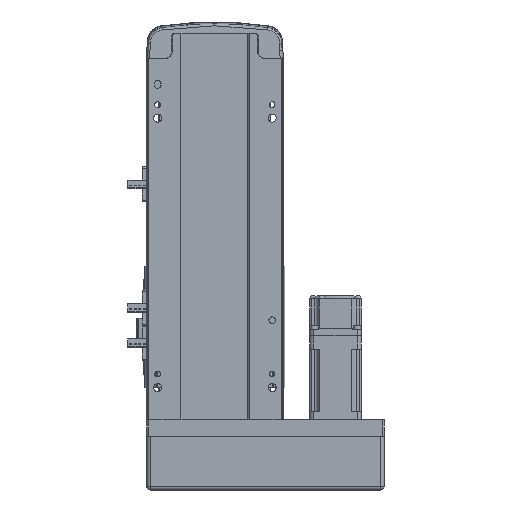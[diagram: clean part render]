
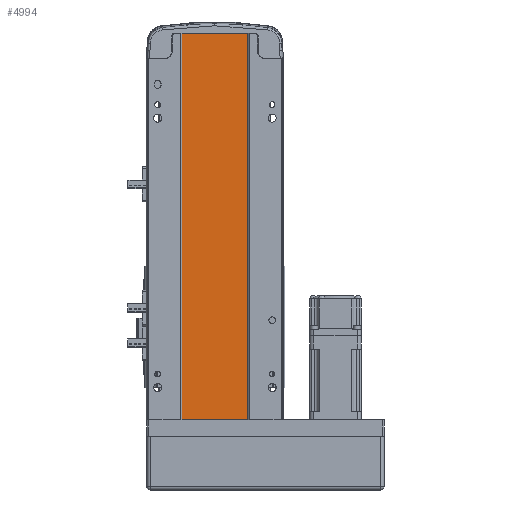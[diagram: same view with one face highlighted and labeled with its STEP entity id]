
A CAD part, front view. The second image highlights one B-rep face of the part: STEP entity #4994.
In plain terms, the highlighted planar face has unit normal (0, -1, 0).
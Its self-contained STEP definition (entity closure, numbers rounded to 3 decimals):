
#1074 = CARTESIAN_POINT ( 'NONE',  ( 24.5, 2., 0. ) ) ;
#2795 = DIRECTION ( 'NONE',  ( 0., 0., -1. ) ) ;
#4994 = ADVANCED_FACE ( 'NONE', ( #10846 ), #39525, .F. ) ;
#5363 = DIRECTION ( 'NONE',  ( 0., 1., 0. ) ) ;
#8535 = DIRECTION ( 'NONE',  ( 0., 0., -1. ) ) ;
#9735 = LINE ( 'NONE', #43490, #50062 ) ;
#10710 = CARTESIAN_POINT ( 'NONE',  ( -24.5, 2., 287. ) ) ;
#10846 = FACE_OUTER_BOUND ( 'NONE', #24128, .T. ) ;
#13327 = ORIENTED_EDGE ( 'NONE', *, *, #23293, .T. ) ;
#16901 = CARTESIAN_POINT ( 'NONE',  ( 0., 2., 0. ) ) ;
#18754 = LINE ( 'NONE', #42192, #32853 ) ;
#20041 = VECTOR ( 'NONE', #8535, 1000. ) ;
#22891 = EDGE_CURVE ( 'NONE', #38306, #44629, #18754, .T. ) ;
#23293 = EDGE_CURVE ( 'NONE', #46670, #44629, #42266, .T. ) ;
#24128 = EDGE_LOOP ( 'NONE', ( #13327, #31374, #45943, #51296 ) ) ;
#26930 = DIRECTION ( 'NONE',  ( 0., 0., 1. ) ) ;
#30978 = EDGE_CURVE ( 'NONE', #48716, #38306, #9735, .T. ) ;
#31374 = ORIENTED_EDGE ( 'NONE', *, *, #22891, .F. ) ;
#32853 = VECTOR ( 'NONE', #2795, 1000. ) ;
#36433 = EDGE_CURVE ( 'NONE', #48716, #46670, #54323, .T. ) ;
#38226 = AXIS2_PLACEMENT_3D ( 'NONE', #43882, #5363, #26930 ) ;
#38306 = VERTEX_POINT ( 'NONE', #45618 ) ;
#38886 = DIRECTION ( 'NONE',  ( 1., 0., 0. ) ) ;
#39525 = PLANE ( 'NONE',  #38226 ) ;
#42192 = CARTESIAN_POINT ( 'NONE',  ( 24.5, 2., 287. ) ) ;
#42266 = LINE ( 'NONE', #16901, #52377 ) ;
#43490 = CARTESIAN_POINT ( 'NONE',  ( -24.5, 2., 287. ) ) ;
#43842 = DIRECTION ( 'NONE',  ( 1., 0., 0. ) ) ;
#43882 = CARTESIAN_POINT ( 'NONE',  ( 0., 2., 287. ) ) ;
#44629 = VERTEX_POINT ( 'NONE', #1074 ) ;
#45618 = CARTESIAN_POINT ( 'NONE',  ( 24.5, 2., 287. ) ) ;
#45943 = ORIENTED_EDGE ( 'NONE', *, *, #30978, .F. ) ;
#46670 = VERTEX_POINT ( 'NONE', #47096 ) ;
#47096 = CARTESIAN_POINT ( 'NONE',  ( -24.5, 2., 0. ) ) ;
#48716 = VERTEX_POINT ( 'NONE', #10710 ) ;
#50062 = VECTOR ( 'NONE', #43842, 1000. ) ;
#51296 = ORIENTED_EDGE ( 'NONE', *, *, #36433, .T. ) ;
#52329 = CARTESIAN_POINT ( 'NONE',  ( -24.5, 2., 287. ) ) ;
#52377 = VECTOR ( 'NONE', #38886, 1000. ) ;
#54323 = LINE ( 'NONE', #52329, #20041 ) ;
